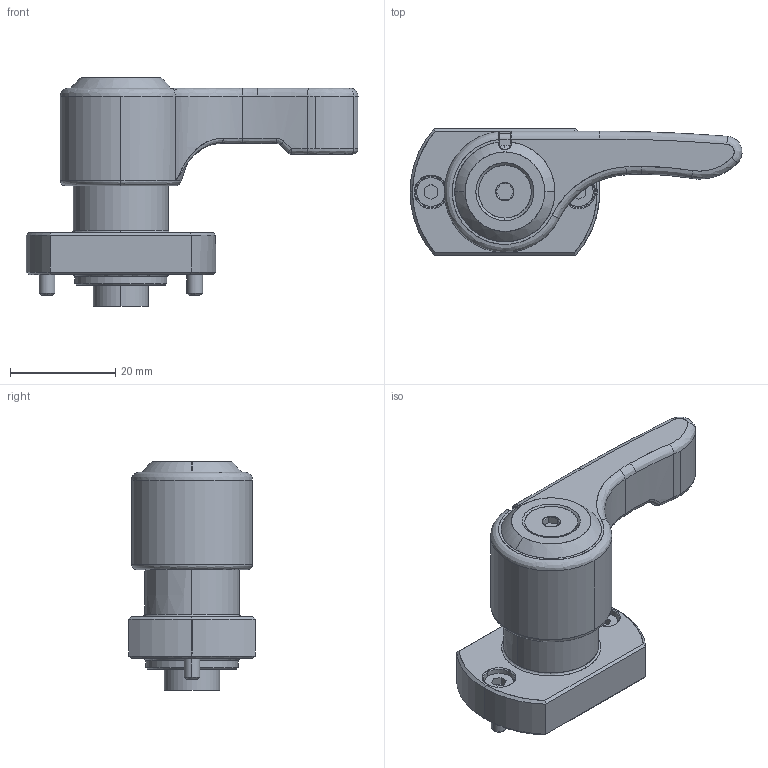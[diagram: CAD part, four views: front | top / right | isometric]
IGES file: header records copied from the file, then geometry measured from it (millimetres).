
Start section: SolidWorks IGES file using analytic representation for surfaces
Global section: file name: Y:\5.更新分\2023年対応\0405_諸々微修正分\QCPS1036-6-BK-F\qcps1036-6-bk-f.IGS; native system: SolidWorks 2021; preprocessor: SolidWorks 2021; author: ImaoCorp; date: 230407.105547; units: millimetre
Bounding box: 62.99 x 24 x 43.4 mm (x, y, z)
Surface area: 11297.9 mm2 (no closed solid volume)
Topology: 0 solids, 0 shells, 362 faces, 3904 edges, 3896 vertices
Faces by surface type: bspline 201, revolution 161
